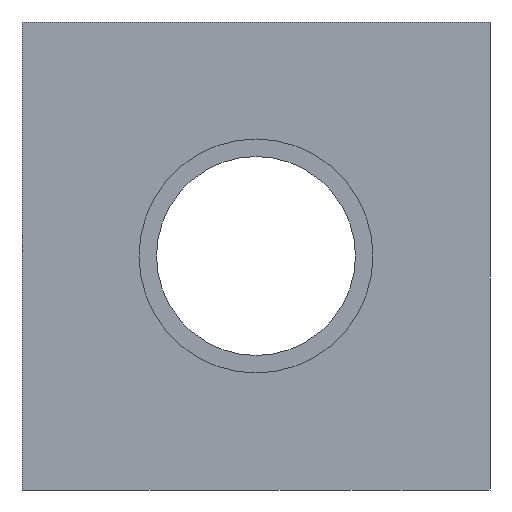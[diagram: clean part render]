
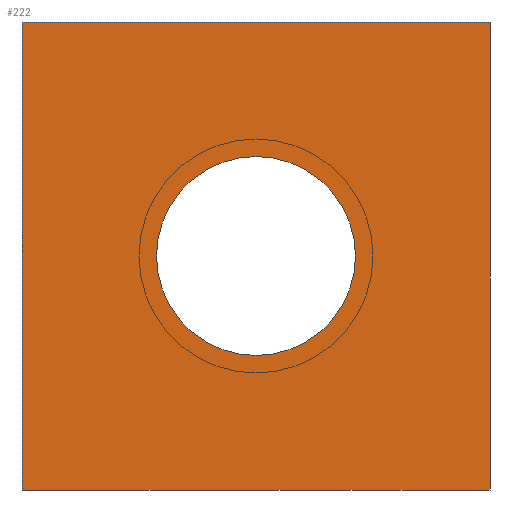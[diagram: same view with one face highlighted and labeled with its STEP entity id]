
A CAD part, front view. The second image highlights one B-rep face of the part: STEP entity #222.
In plain terms, the highlighted planar face has unit normal (0, -1, 0).
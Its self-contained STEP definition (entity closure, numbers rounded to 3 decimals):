
#1=DIRECTION('',(0.,0.,1.));
#2=VECTOR('',#1,16.);
#3=CARTESIAN_POINT('',(-8.,0.,-8.));
#4=LINE('',#3,#2);
#5=DIRECTION('',(1.,0.,0.));
#6=VECTOR('',#5,16.);
#7=CARTESIAN_POINT('',(-8.,0.,8.));
#8=LINE('',#7,#6);
#9=DIRECTION('',(0.,0.,-1.));
#10=VECTOR('',#9,16.);
#11=CARTESIAN_POINT('',(8.,0.,8.));
#12=LINE('',#11,#10);
#13=DIRECTION('',(-1.,0.,0.));
#14=VECTOR('',#13,16.);
#15=CARTESIAN_POINT('',(8.,0.,-8.));
#16=LINE('',#15,#14);
#17=CARTESIAN_POINT('',(0.,0.,0.));
#18=DIRECTION('',(0.,1.,0.));
#19=DIRECTION('',(1.,0.,0.));
#20=AXIS2_PLACEMENT_3D('',#17,#18,#19);
#22=CARTESIAN_POINT('',(0.,0.,0.));
#23=DIRECTION('',(0.,1.,0.));
#24=DIRECTION('',(-1.,0.,0.));
#25=AXIS2_PLACEMENT_3D('',#22,#23,#24);
#173=CARTESIAN_POINT('',(-8.,0.,-8.));
#174=CARTESIAN_POINT('',(-8.,0.,8.));
#175=VERTEX_POINT('',#173);
#176=VERTEX_POINT('',#174);
#177=CARTESIAN_POINT('',(8.,0.,8.));
#178=VERTEX_POINT('',#177);
#179=CARTESIAN_POINT('',(8.,0.,-8.));
#180=VERTEX_POINT('',#179);
#193=CARTESIAN_POINT('',(3.4,0.,0.));
#194=CARTESIAN_POINT('',(-3.4,0.,0.));
#195=VERTEX_POINT('',#193);
#196=VERTEX_POINT('',#194);
#201=CARTESIAN_POINT('',(0.,0.,0.));
#202=DIRECTION('',(0.,1.,0.));
#203=DIRECTION('',(1.,0.,0.));
#204=AXIS2_PLACEMENT_3D('',#201,#202,#203);
#205=PLANE('',#204);
#207=ORIENTED_EDGE('',*,*,#206,.T.);
#209=ORIENTED_EDGE('',*,*,#208,.T.);
#211=ORIENTED_EDGE('',*,*,#210,.T.);
#213=ORIENTED_EDGE('',*,*,#212,.T.);
#214=EDGE_LOOP('',(#207,#209,#211,#213));
#215=FACE_OUTER_BOUND('',#214,.F.);
#217=ORIENTED_EDGE('',*,*,#216,.F.);
#219=ORIENTED_EDGE('',*,*,#218,.F.);
#220=EDGE_LOOP('',(#217,#219));
#221=FACE_BOUND('',#220,.F.);
#222=ADVANCED_FACE('',(#215,#221),#205,.F.);
#21=CIRCLE('',#20,3.4);
#26=CIRCLE('',#25,3.4);
#206=EDGE_CURVE('',#175,#176,#4,.T.);
#208=EDGE_CURVE('',#176,#178,#8,.T.);
#210=EDGE_CURVE('',#178,#180,#12,.T.);
#212=EDGE_CURVE('',#180,#175,#16,.T.);
#216=EDGE_CURVE('',#195,#196,#21,.T.);
#218=EDGE_CURVE('',#196,#195,#26,.T.);
